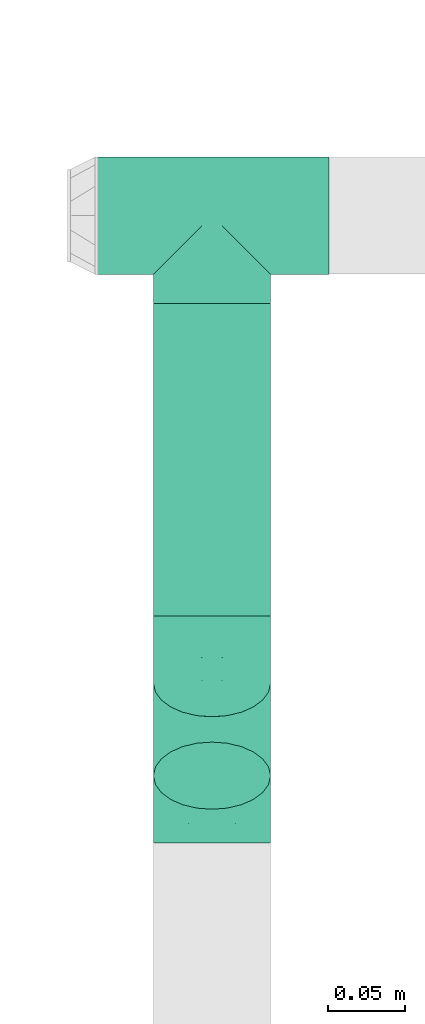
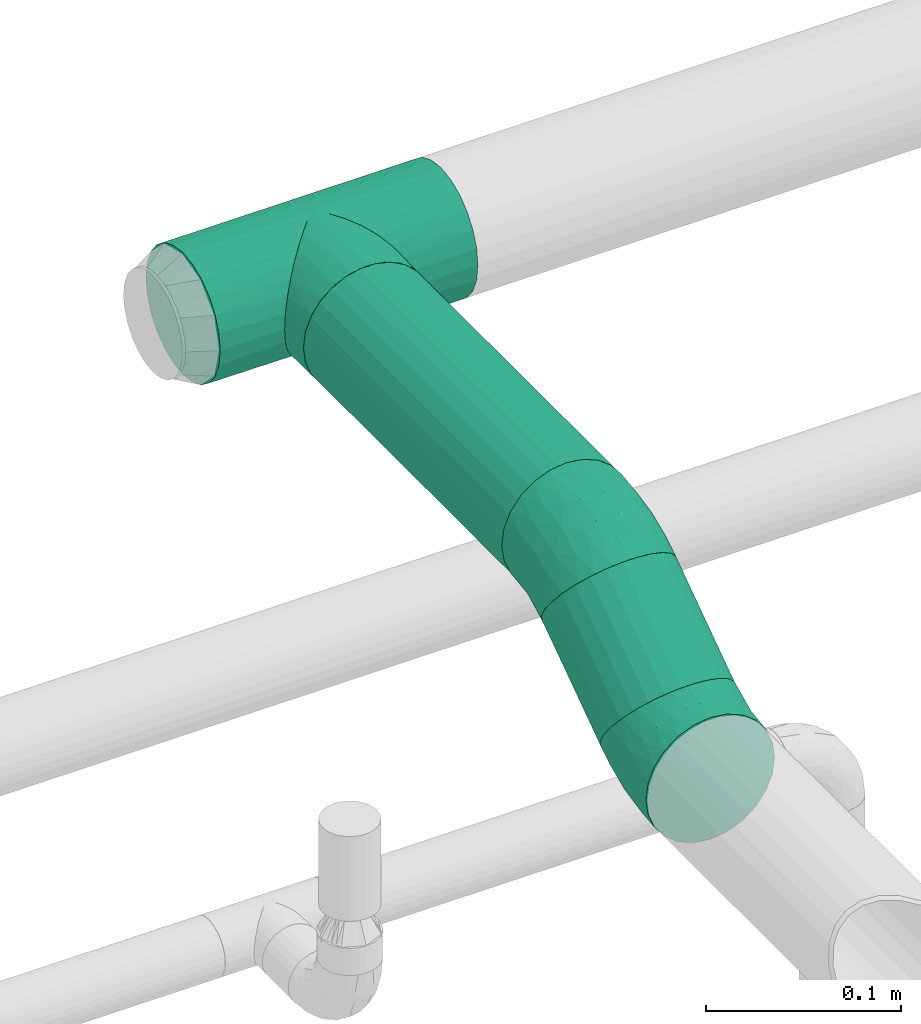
# One storey, part 15 of 95: 3 flow fittings, 2 flow segments.
"""IFC2X3 building model written with IfcOpenShell, lengths in millimetres."""

import ifcopenshell
import ifcopenshell.guid

model = None  # the IFC model being written
_history = None  # IfcOwnerHistory: only IFC2X3 demands one
_inside = {}  # id of a spatial element -> (the spatial element, [elements in it])
_under = {}  # id of a project, library or spatial element -> (it, [spatial elements below it])
_declared = {}  # id of a project -> (the project, [libraries it declares])
_typed = {}  # id of a type object -> (the type object, [elements of that type])
_made_of = {}  # id of a material, layer set ... -> (it, [elements and type objects made of it])


def new_model(schema):
    """Start an empty IFC model of exactly this schema.

    Asked for "IFC4X3", IfcOpenShell would pick the latest addendum, in which some entities
    have other attributes; the version numbers below select the first issue.
    IFC2X3 requires an IfcOwnerHistory on every rooted entity: one is made here for all.
    """
    global model, _history
    if schema == "IFC4X3":
        model = ifcopenshell.file(schema_version=(4, 3, 0, 0))
    else:
        model = ifcopenshell.file(schema=schema)
    _inside.clear()
    _under.clear()
    _declared.clear()
    _typed.clear()
    _made_of.clear()
    _history = None
    if model.schema == "IFC2X3":
        org = make("IfcOrganization", Name="unknown")
        user = make(
            "IfcPersonAndOrganization",
            ThePerson=make("IfcPerson", FamilyName="unknown"),
            TheOrganization=org,
        )
        app = make(
            "IfcApplication",
            ApplicationDeveloper=org,
            Version="unknown",
            ApplicationFullName="unknown",
            ApplicationIdentifier="unknown",
        )
        _history = make(
            "IfcOwnerHistory",
            OwningUser=user,
            OwningApplication=app,
            ChangeAction="ADDED",
            CreationDate=0,
        )
    return model


def make(cls, **values):
    """One entity of the class cls with the attributes given. An attribute that is None is left unset."""
    return model.create_entity(
        cls, **{name: value for name, value in values.items() if value is not None}
    )


def entity(cls, *values):
    """Any entity or typed value of the class cls, its attributes in the order of the schema. None: left unset."""
    e = model.create_entity(cls)
    for i, value in enumerate(values):
        if value is not None:
            e[i] = value
    return e


def rooted(cls, **values):
    """An entity with a GlobalId (a new one), such as an element, a storey or a relation."""
    return make(cls, GlobalId=ifcopenshell.guid.new(), OwnerHistory=_history, **values)


def si_unit(unit_type, name, prefix=None):
    """IfcSIUnit, for example si_unit("LENGTHUNIT", "METRE", prefix="MILLI")."""
    return make("IfcSIUnit", UnitType=unit_type, Prefix=prefix, Name=name)


def converted_unit(unit_type, name, factor, base, dimensions=None, offset=None):
    """IfcConversionBasedUnit, such as the inch: factor (a typed value) times the base unit."""
    return make(
        "IfcConversionBasedUnit"
        if offset is None
        else "IfcConversionBasedUnitWithOffset",
        ConversionOffset=offset,
        Dimensions=None
        if dimensions is None
        else entity("IfcDimensionalExponents", *dimensions),
        UnitType=unit_type,
        Name=name,
        ConversionFactor=make(
            "IfcMeasureWithUnit", ValueComponent=factor, UnitComponent=base
        ),
    )


def derived_unit(unit_type, elements):
    """IfcDerivedUnit: a product of units, each with its exponent."""
    return make(
        "IfcDerivedUnit",
        Elements=[
            make("IfcDerivedUnitElement", Unit=unit, Exponent=power)
            for unit, power in elements
        ],
        UnitType=unit_type,
    )


def assignment(units):
    """IfcUnitAssignment: the units of a project."""
    return None if units is None else make("IfcUnitAssignment", Units=units)


def point(xyz):
    """IfcCartesianPoint."""
    return None if xyz is None else make("IfcCartesianPoint", Coordinates=xyz)


def direction(xyz):
    """IfcDirection."""
    return None if xyz is None else make("IfcDirection", DirectionRatios=xyz)


def frame(location, z_axis=None, x_axis=None):
    """IfcAxis2Placement3D, a coordinate frame: its origin and axes. An axis left out is left unset."""
    return make(
        "IfcAxis2Placement3D",
        Location=point(location),
        Axis=direction(z_axis),
        RefDirection=direction(x_axis),
    )


def frame_2d(location, x_axis=None):
    """IfcAxis2Placement2D, a coordinate frame in the plane: its origin and x axis."""
    return make(
        "IfcAxis2Placement2D", Location=point(location), RefDirection=direction(x_axis)
    )


def origin_with_axes():
    """The frame at (0, 0, 0) with the z axis (0, 0, 1) and the x axis (1, 0, 0) written out."""
    return frame((0.0, 0.0, 0.0), z_axis=(0.0, 0.0, 1.0), x_axis=(1.0, 0.0, 0.0))


def origin_2d_with_axis():
    """The frame at (0, 0) in the plane with the x axis (1, 0) written out."""
    return frame_2d((0.0, 0.0), x_axis=(1.0, 0.0))


def place(relative_to, where):
    """IfcLocalPlacement: puts the frame where relative to a parent placement (None: the world)."""
    return make(
        "IfcLocalPlacement", PlacementRelTo=relative_to, RelativePlacement=where
    )


def context(
    kind, dimensions, precision=None, world=None, true_north=None, identifier=None
):
    """IfcGeometricRepresentationContext, for example the 3D "Model" context."""
    return make(
        "IfcGeometricRepresentationContext",
        ContextIdentifier=identifier,
        ContextType=kind,
        CoordinateSpaceDimension=dimensions,
        Precision=precision,
        WorldCoordinateSystem=world,
        TrueNorth=true_north,
    )


def subcontext(parent, identifier, kind, view, scale=None):
    """IfcGeometricRepresentationSubContext, for example "Body" below "Model"."""
    return make(
        "IfcGeometricRepresentationSubContext",
        ContextIdentifier=identifier,
        ContextType=kind,
        ParentContext=parent,
        TargetScale=scale,
        TargetView=view,
    )


def project(units=None, contexts=None):
    """IfcProject with its units and contexts."""
    return rooted(
        "IfcProject",
        Name="project",
        RepresentationContexts=contexts,
        UnitsInContext=assignment(units),
    )


def spatial(cls, under=None, at=None, **own):
    """A site, building, storey or space (cls), placed at a placement, below another one or the project."""
    s = rooted(cls, ObjectPlacement=at, **own)
    if under is not None:
        _under.setdefault(under.id(), (under, []))[1].append(s)
    return s


def profile(cls, at=None, kind="AREA", **sizes):
    """A parametric profile (cls). Its sizes go by their IFC names, for example OverallWidth=200.0."""
    return make(cls, ProfileType=kind, Position=at, **sizes)


def hollow_circle(**sizes):
    """IfcCircleHollowProfileDef."""
    return profile("IfcCircleHollowProfileDef", **sizes)


def extrude(swept, where, along, depth):
    """IfcExtrudedAreaSolid: the profile swept, set in the frame where, extruded along a direction by depth."""
    return make(
        "IfcExtrudedAreaSolid",
        SweptArea=swept,
        Position=where,
        ExtrudedDirection=direction(along),
        Depth=depth,
    )


def faces_of(points, faces, orient=None, outer=None):
    """IfcFace entities. A face is a list of loops; a loop is a list of indices into points, from 0.

    orient and outer hold one flag for each loop. By default every Orientation is true, the
    first loop of a face is its IfcFaceOuterBound and the others are IfcFaceBound.
    """
    made = []
    for i, loops in enumerate(faces):
        bounds = []
        for j, loop in enumerate(loops):
            is_outer = j == 0 if outer is None else outer[i][j]
            bounds.append(
                make(
                    "IfcFaceOuterBound" if is_outer else "IfcFaceBound",
                    Bound=make("IfcPolyLoop", Polygon=[points[k] for k in loop]),
                    Orientation=True if orient is None else orient[i][j],
                )
            )
        made.append(make("IfcFace", Bounds=bounds))
    return made


def open_shell(faces, orient=None, outer=None):
    """The faces of one IfcOpenShell. surface_model builds it on its shared points."""
    return ("IfcOpenShell", faces, orient, outer)


def surface_model(cls, points, shells):
    """IfcFaceBasedSurfaceModel or IfcShellBasedSurfaceModel (cls): surfaces that need not close."""
    shared = [point(p) for p in points]
    made = [make(c, CfsFaces=faces_of(shared, fs, o, b)) for c, fs, o, b in shells]
    if cls == "IfcFaceBasedSurfaceModel":
        return make(cls, FbsmFaces=made)
    return make(cls, SbsmBoundary=made)


def shape(context_of_items, identifier, shape_type, items):
    """IfcShapeRepresentation: the items that make up one representation, for example the "Body"."""
    return make(
        "IfcShapeRepresentation",
        ContextOfItems=context_of_items,
        RepresentationIdentifier=identifier,
        RepresentationType=shape_type,
        Items=items,
    )


def source(mapping_origin, context_of_items, identifier, shape_type, items):
    """IfcRepresentationMap: a shape defined once, which mapped items show again and again."""
    return make(
        "IfcRepresentationMap",
        MappingOrigin=mapping_origin,
        MappedRepresentation=shape(context_of_items, identifier, shape_type, items),
    )


def transform(
    local_origin,
    x_axis=None,
    y_axis=None,
    z_axis=None,
    scale=None,
    scale2=None,
    scale3=None,
    uniform=True,
):
    """IfcCartesianTransformationOperator3D, or its non-uniform kind. x_axis, y_axis, z_axis: its Axis1, 2, 3."""
    if uniform:
        return make(
            "IfcCartesianTransformationOperator3D",
            Axis1=direction(x_axis),
            Axis2=direction(y_axis),
            LocalOrigin=point(local_origin),
            Scale=scale,
            Axis3=direction(z_axis),
        )
    return make(
        "IfcCartesianTransformationOperator3DnonUniform",
        Axis1=direction(x_axis),
        Axis2=direction(y_axis),
        LocalOrigin=point(local_origin),
        Scale=scale,
        Axis3=direction(z_axis),
        Scale2=scale2,
        Scale3=scale3,
    )


def mapped(mapping_source, mapping_target):
    """IfcMappedItem: shows the shape of a source again, moved by a transform."""
    return make(
        "IfcMappedItem", MappingSource=mapping_source, MappingTarget=mapping_target
    )


def made_of(thing, what):
    """Note that an element or type object is made of a material, layer set ...; save() writes the relation."""
    if what is not None:
        _made_of.setdefault(what.id(), (what, []))[1].append(thing)
    return thing


def type_object(cls, material=None, **own):
    """A type object (cls), such as IfcWallType, which elements share."""
    return made_of(rooted(cls, **own), material)


def element(
    cls,
    number,
    at=None,
    inside=None,
    cuts=None,
    type_object=None,
    material=None,
    context=None,
    identifier="Body",
    shape_type=None,
    held_by="IfcProductDefinitionShape",
    body=None,
    shapes=None,
    **own,
):
    """One element of the class cls, such as IfcWall. Its Tag is "e" and its number.

    at: its placement. inside: the storey or other place that contains it. cuts: it is an
    opening in that element (IfcRelVoidsElement). A single representation is given by context,
    identifier, shape_type and body (its items); several are given by shapes. held_by: the class
    of the entity that holds the representations. save() writes the other relations.
    """
    e = rooted(cls, Tag="e%d" % number, ObjectPlacement=at, **own)
    if body is not None:
        shapes = [shape(context, identifier, shape_type, body)]
    if shapes is not None:
        e.Representation = make(held_by, Representations=shapes)
    if inside is not None:
        _inside.setdefault(inside.id(), (inside, []))[1].append(e)
    if cuts is not None:
        rooted(
            "IfcRelVoidsElement", RelatingBuildingElement=cuts, RelatedOpeningElement=e
        )
    if type_object is not None:
        _typed.setdefault(type_object.id(), (type_object, []))[1].append(e)
    return made_of(e, material)


def aggregate(whole, parts):
    """IfcRelAggregates: a whole, such as a stair, and the parts it consists of."""
    return rooted("IfcRelAggregates", RelatingObject=whole, RelatedObjects=parts)


def save(model, path):
    """Write the relations noted so far, then the file.

    IfcRelAggregates (storeys below a building ...), IfcRelContainedInSpatialStructure (elements
    in a storey), IfcRelDefinesByType, IfcRelAssociatesMaterial and IfcRelDeclares: one each for
    every whole, place, type object, material and project.
    """
    for whole, parts in _under.values():
        aggregate(whole, parts)
    for where, things in _inside.values():
        rooted(
            "IfcRelContainedInSpatialStructure",
            RelatedElements=things,
            RelatingStructure=where,
        )
    for kind, things in _typed.values():
        rooted("IfcRelDefinesByType", RelatedObjects=things, RelatingType=kind)
    for what, things in _made_of.values():
        rooted("IfcRelAssociatesMaterial", RelatedObjects=things, RelatingMaterial=what)
    for by, libraries in _declared.values():
        rooted("IfcRelDeclares", RelatingContext=by, RelatedDefinitions=libraries)
    model.write(path)


model = new_model("IFC2X3")

# Units and contexts
model_context = context("Model", 3, precision=0.01, world=frame((0.0, 4.29681676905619e-09, 0.0)), true_north=direction((4.01073788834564e-13, 1.0)))
plan_context = context("Plan", 3, precision=0.01, world=frame((0.0, 4.29681676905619e-09, 0.0)), true_north=direction((4.01073788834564e-13, 1.0)))
body_context = subcontext(model_context, "Body", "Model", "MODEL_VIEW")
ifc_project = project(units=[converted_unit("PLANEANGLEUNIT", "DEGREE", entity("IfcPositiveLengthMeasure", 0.0174532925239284), si_unit("PLANEANGLEUNIT", "RADIAN"), dimensions=[0, 0, 0, 0, 0, 0, 0]), si_unit("AREAUNIT", "SQUARE_METRE"), si_unit("LENGTHUNIT", "METRE", prefix="MILLI"), si_unit("MASSUNIT", "GRAM", prefix="KILO"), si_unit("POWERUNIT", "WATT"), si_unit("PRESSUREUNIT", "PASCAL"), si_unit("FORCEUNIT", "NEWTON", prefix="KILO"), si_unit("ELECTRICVOLTAGEUNIT", "VOLT"), si_unit("ELECTRICCURRENTUNIT", "AMPERE"), si_unit("THERMODYNAMICTEMPERATUREUNIT", "DEGREE_CELSIUS"), si_unit("TIMEUNIT", "SECOND"), si_unit("VOLUMEUNIT", "CUBIC_METRE"), derived_unit("LINEARVELOCITYUNIT", [(si_unit("LENGTHUNIT", "METRE"), 1), (si_unit("TIMEUNIT", "SECOND"), -1)]), derived_unit("VOLUMETRICFLOWRATEUNIT", [(si_unit("VOLUMEUNIT", "CUBIC_METRE"), 1), (si_unit("TIMEUNIT", "SECOND"), -1)]), derived_unit("THERMALTRANSMITTANCEUNIT", [(si_unit("POWERUNIT", "WATT"), 1), (si_unit("THERMODYNAMICTEMPERATUREUNIT", "KELVIN"), -1), (si_unit("AREAUNIT", "SQUARE_METRE"), -1)]), derived_unit("SOUNDPRESSUREUNIT", [(si_unit("PRESSUREUNIT", "PASCAL"), 1)])], contexts=[model_context, plan_context])

# Site, building, storey
site_placement = place(None, frame((0.0, -4.29681676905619e-09, 0.0), z_axis=(0.0, 0.0, 1.0), x_axis=(1.0, 0.0, 0.0)))
site = spatial("IfcSite", under=ifc_project, at=site_placement, CompositionType="ELEMENT")
building_placement = place(site_placement, frame((0.0, 4.29681676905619e-09, 0.0), z_axis=(0.0, 0.0, 1.0), x_axis=(1.0, 0.0, 0.0)))
building = spatial("IfcBuilding", under=site, at=building_placement, Name="mc-building", CompositionType="ELEMENT")
storey_placement = place(building_placement, frame((0.0, 0.0, 210900.0), z_axis=(0.0, 0.0, 1.0), x_axis=(1.0, 0.0, 0.0)))
storey = spatial("IfcBuildingStorey", under=building, at=storey_placement, Name="Nivå F", CompositionType="ELEMENT", Elevation=210900.0)

# Flow fittings
pipe_fitting_type_1 = type_object("IfcPipeFittingType", Name="magi_pipe_fe_tee_centric_90_NOR", PredefinedType="JUNCTION")
shared_shape_1 = source(origin_with_axes(), body_context, "Body", "SurfaceModel", [
    surface_model("IfcShellBasedSurfaceModel", [(-76.2, 19.05, -32.99557), (-76.2, 9.86101, -36.80177), (-76.2, 0.0, -38.1), (-76.2, 26.94077, -26.94077), (-76.2, 36.80177, -9.86101), (-76.2, 32.99557, -19.05), (-76.2, -19.05, -32.99557), (-76.2, -26.94077, -26.94077), (-76.2, -9.86101, -36.80177), (-76.2, 38.1, 0.0), (-76.2, 36.80177, 9.86101), (-76.2, -38.1, 0.0), (-76.2, -36.80177, -9.86101), (-76.2, -32.99557, -19.05), (-76.2, 32.99557, 19.05), (-76.2, -36.80177, 9.86101), (-76.2, 19.05, 32.99557), (-76.2, 26.94077, 26.94077), (-76.2, 0.0, 38.1), (-76.2, 9.86101, 36.80177), (-76.2, -26.94077, 26.94077), (-76.2, -32.99557, 19.05), (-76.2, -9.86101, 36.80177), (-76.2, -19.05, 32.99557), (76.2, 0.0, -38.1), (76.2, -36.80177, 9.86101), (76.2, -38.1, 0.0), (76.2, 36.80177, -9.86101), (76.2, 9.86101, -36.80177), (76.2, 19.05, -32.99557), (76.2, 26.94077, -26.94077), (76.2, 32.99557, -19.05), (76.2, -9.86101, -36.80177), (76.2, -26.94077, -26.94077), (76.2, -19.05, -32.99557), (76.2, -32.99557, -19.05), (76.2, -36.80177, -9.86101), (76.2, 19.05, 32.99557), (76.2, 36.80177, 9.86101), (76.2, 32.99557, 19.05), (76.2, 0.0, 38.1), (76.2, 26.94077, 26.94077), (76.2, 9.86101, 36.80177), (76.2, -32.99557, 19.05), (76.2, -26.94077, 26.94077), (76.2, -19.05, 32.99557), (76.2, -9.86101, 36.80177), (76.2, 38.1, 0.0), (37.03376, -37.03376, 8.95045), (38.1, -38.1, 0.0), (76.2, -34.89867, 14.4555), (35.56052, -35.56052, 12.98504), (34.08727, -34.08727, 17.01964), (18.8305, -18.8305, 33.12132), (76.2, -22.99539, 29.96817), (29.78269, -29.78269, 23.76134), (76.2, -29.96817, 22.99539), (24.5894, -24.5894, 29.10277), (-35.56052, -35.56052, 12.98504), (-76.2, -34.89867, 14.4555), (-34.08727, -34.08727, 17.01964), (-37.03376, -37.03376, 8.95045), (-38.1, -38.1, 0.0), (-18.8305, -18.8305, 33.12132), (-76.2, -22.99539, 29.96817), (-29.78269, -29.78269, 23.76134), (-24.5894, -24.5894, 29.10277), (-76.2, -29.96817, 22.99539), (-12.71924, -12.71924, 35.91422), (6.40528, -6.40528, 37.55772), (12.71924, -12.71924, 35.91422), (0.0, 0.0, 38.1), (-6.40528, -6.40528, 37.55772), (6.40528, -6.40528, -37.55772), (0.0, 0.0, -38.1), (12.71924, -12.71924, -35.91422), (-24.5894, -24.5894, -29.10277), (-76.2, -22.99539, -29.96817), (-35.56052, -35.56052, -12.98504), (-37.03376, -37.03376, -8.95045), (-29.78269, -29.78269, -23.76134), (-76.2, -29.96817, -22.99539), (-6.40528, -6.40528, -37.55772), (-12.71924, -12.71924, -35.91422), (18.8305, -18.8305, -33.12132), (76.2, -22.99539, -29.96817), (24.5894, -24.5894, -29.10277), (-76.2, -34.89867, -14.4555), (-34.08727, -34.08727, -17.01964), (29.78269, -29.78269, -23.76134), (76.2, -29.96817, -22.99539), (37.03376, -37.03376, -8.95045), (35.56052, -35.56052, -12.98504), (34.08727, -34.08727, -17.01964), (76.2, -34.89867, -14.4555), (-18.8305, -18.8305, -33.12132), (0.0, -57.15, -38.1), (9.86101, -57.15, -36.80177), (19.05, -57.15, -32.99557), (26.94077, -57.15, -26.94077), (32.99557, -57.15, -19.05), (36.80177, -57.15, -9.86101), (0.0, -57.15, 38.1), (-26.94077, -57.15, -26.94077), (-9.86101, -57.15, -36.80177), (-19.05, -57.15, -32.99557), (-36.80177, -57.15, -9.86101), (-32.99557, -57.15, -19.05), (-32.99557, -57.15, 19.05), (-36.80177, -57.15, 9.86101), (-38.1, -57.15, 0.0), (19.05, -57.15, 32.99557), (36.80177, -57.15, 9.86101), (32.99557, -57.15, 19.05), (26.94077, -57.15, 26.94077), (9.86101, -57.15, 36.80177), (-26.94077, -57.15, 26.94077), (-19.05, -57.15, 32.99557), (-9.86101, -57.15, 36.80177), (38.1, -57.15, 0.0)], [open_shell([[[0, 1, 2]], [[3, 0, 2]], [[4, 5, 3]], [[6, 7, 8]], [[9, 4, 10]], [[11, 3, 2]], [[4, 3, 11]], [[11, 8, 7]], [[12, 11, 13]], [[7, 13, 11]], [[11, 2, 8]], [[11, 10, 4]], [[14, 10, 11]], [[14, 11, 15]], [[15, 16, 14]], [[17, 14, 16]], [[18, 19, 16]], [[20, 18, 21]], [[15, 21, 18]], [[22, 18, 23]], [[20, 23, 18]], [[18, 16, 15]], [[24, 25, 26]], [[27, 28, 29]], [[30, 31, 27]], [[30, 27, 29]], [[28, 25, 24]], [[32, 33, 34]], [[32, 24, 33]], [[35, 26, 36]], [[26, 35, 33]], [[24, 26, 33]], [[28, 27, 37]], [[27, 38, 37]], [[37, 38, 39]], [[37, 40, 28]], [[37, 39, 41]], [[40, 37, 42]], [[43, 40, 44]], [[25, 28, 43]], [[45, 40, 46]], [[40, 45, 44]], [[40, 43, 28]], [[38, 27, 47]], [[26, 25, 48]], [[48, 49, 26]], [[25, 50, 51]], [[50, 43, 52]], [[45, 53, 54]], [[44, 55, 56]], [[55, 44, 57]], [[43, 55, 52]], [[57, 44, 54]], [[15, 58, 59]], [[60, 59, 58]], [[61, 11, 62]], [[11, 61, 15]], [[15, 61, 58]], [[63, 23, 64]], [[65, 66, 20]], [[65, 67, 21]], [[20, 66, 64]], [[63, 68, 23]], [[65, 21, 60]], [[50, 52, 51]], [[54, 53, 57]], [[46, 40, 69]], [[25, 51, 48]], [[53, 45, 70]], [[69, 70, 46]], [[65, 20, 67]], [[69, 40, 71]], [[70, 45, 46]], [[14, 41, 39]], [[10, 39, 38]], [[16, 42, 37]], [[17, 37, 41]], [[42, 71, 40]], [[9, 38, 47]], [[72, 71, 18]], [[60, 21, 59]], [[72, 22, 68]], [[22, 72, 18]], [[22, 23, 68]], [[71, 19, 18]], [[63, 64, 66]], [[42, 19, 71]], [[16, 19, 42]], [[16, 37, 17]], [[14, 17, 41]], [[10, 14, 39]], [[38, 9, 10]], [[55, 43, 56]], [[3, 31, 30]], [[4, 27, 31]], [[9, 47, 27]], [[0, 30, 29]], [[24, 32, 73]], [[28, 24, 74]], [[73, 32, 75]], [[76, 7, 77]], [[29, 28, 1]], [[32, 34, 75]], [[24, 73, 74]], [[4, 31, 5]], [[0, 3, 30]], [[5, 31, 3]], [[9, 27, 4]], [[12, 78, 79]], [[80, 13, 81]], [[82, 83, 8]], [[74, 82, 2]], [[74, 2, 1]], [[2, 82, 8]], [[83, 6, 8]], [[1, 0, 29]], [[74, 1, 28]], [[84, 85, 86]], [[85, 33, 86]], [[87, 88, 78]], [[84, 34, 85]], [[89, 86, 33]], [[90, 35, 89]], [[34, 84, 75]], [[36, 91, 92]], [[91, 36, 26]], [[93, 94, 92]], [[49, 91, 26]], [[35, 93, 89]], [[76, 77, 95]], [[36, 92, 94]], [[77, 6, 95]], [[7, 76, 80]], [[7, 80, 81]], [[93, 35, 94]], [[95, 6, 83]], [[79, 62, 11]], [[12, 87, 78]], [[88, 87, 13]], [[12, 79, 11]], [[88, 13, 80]], [[89, 33, 90]], [[96, 97, 98]], [[96, 98, 99]], [[99, 100, 101]], [[99, 101, 96]], [[102, 103, 96]], [[104, 103, 105]], [[104, 96, 103]], [[103, 106, 107]], [[103, 108, 106]], [[106, 109, 110]], [[111, 96, 101]], [[112, 113, 101]], [[101, 113, 111]], [[111, 102, 96]], [[111, 113, 114]], [[102, 111, 115]], [[108, 102, 116]], [[109, 106, 108]], [[117, 102, 118]], [[102, 117, 116]], [[102, 108, 103]], [[112, 101, 119]], [[61, 62, 110]], [[109, 61, 110]], [[116, 117, 66]], [[65, 108, 116]], [[60, 109, 108]], [[68, 117, 118]], [[60, 61, 109]], [[66, 65, 116]], [[60, 108, 65]], [[68, 63, 117]], [[102, 71, 72]], [[68, 118, 72]], [[66, 117, 63]], [[72, 118, 102]], [[69, 102, 115]], [[111, 70, 115]], [[113, 112, 52]], [[55, 114, 113]], [[57, 111, 114]], [[48, 112, 119]], [[57, 53, 111]], [[70, 69, 115]], [[53, 70, 111]], [[49, 48, 119]], [[52, 55, 113]], [[48, 52, 112]], [[57, 114, 55]], [[102, 69, 71]], [[49, 119, 91]], [[101, 91, 119]], [[89, 100, 99]], [[99, 98, 86]], [[93, 101, 100]], [[75, 98, 97]], [[93, 91, 101]], [[86, 89, 99]], [[93, 100, 89]], [[75, 84, 98]], [[96, 74, 73]], [[75, 97, 73]], [[86, 98, 84]], [[73, 97, 96]], [[82, 96, 104]], [[105, 83, 104]], [[107, 106, 88]], [[80, 103, 107]], [[76, 105, 103]], [[79, 106, 110]], [[76, 95, 105]], [[83, 82, 104]], [[95, 83, 105]], [[62, 79, 110]], [[88, 80, 107]], [[79, 88, 106]], [[76, 103, 80]], [[96, 82, 74]]])]),
])
flow_fitting_placement = place(storey_placement, frame((520864.85321, 449640.17009, 4440.0), z_axis=(0.0, 0.0, -1.0), x_axis=(-1.0, 0.0, 0.0)))
element("IfcFlowFitting", 1, at=flow_fitting_placement, inside=storey, type_object=pipe_fitting_type_1, Name="magi_pipe_fe_tee_centric_90_NOR", context=body_context, shape_type="MappedRepresentation", body=[
    mapped(shared_shape_1, transform((0.0, 0.0, 0.0), scale=1.0)),
])
pipe_fitting_type_2 = type_object("IfcPipeFittingType", Name="magi_pipe_fe_elbow_short_001", PredefinedType="BEND")
shared_shape_2 = source(origin_with_axes(), body_context, "Body", "SurfaceModel", [
    surface_model("IfcShellBasedSurfaceModel", [(-24.02577, 19.05, -32.99557), (-24.02577, 9.86101, -36.80177), (-24.02577, 0.0, -38.1), (-24.02577, 26.94077, -26.94077), (-24.02577, 36.80177, -9.86101), (-24.02577, 32.99557, -19.05), (-24.02577, -36.80177, 9.86101), (-24.02577, -9.86101, -36.80177), (-24.02577, -26.94077, -26.94077), (-24.02577, -32.99557, -19.05), (-24.02577, -19.05, -32.99557), (-24.02577, -36.80177, -9.86101), (-24.02577, -38.1, 0.0), (-24.02577, 36.80177, 9.86101), (-24.02577, 26.94077, 26.94077), (-24.02577, 32.99557, 19.05), (-24.02577, 9.86101, 36.80177), (-24.02577, 19.05, 32.99557), (-24.02577, -19.05, 32.99557), (-24.02577, 0.0, 38.1), (-24.02577, -32.99557, 19.05), (-24.02577, -26.94077, 26.94077), (-24.02577, -9.86101, 36.80177), (-24.02577, 38.1, 0.0), (4.22817, 35.8492, -26.94077), (19.68076, 13.78061, -38.1), (14.02472, 21.85828, -36.80177), (8.75413, 29.38546, -32.99557), (0.75528, 40.809, -19.05), (-1.42787, 43.92686, -9.86101), (25.3368, 5.70295, -36.80177), (40.78939, -16.36563, 9.86101), (35.13335, -8.28797, -26.94077), (30.60739, -1.82423, -32.99557), (40.78939, -16.36563, -9.86101), (38.60624, -13.24777, -19.05), (41.53402, -17.42908, 0.0), (-1.42787, 43.92686, 9.86101), (0.75528, 40.809, 19.05), (4.22817, 35.8492, 26.94077), (8.75413, 29.38546, 32.99557), (14.02472, 21.85828, 36.80177), (35.13335, -8.28797, 26.94077), (38.60624, -13.24777, 19.05), (25.3368, 5.70295, 36.80177), (30.60739, -1.82423, 32.99557), (19.68076, 13.78061, 38.1), (-2.17251, 44.99031, 0.0), (-9.47827, -29.62294, 22.67459), (3.62347, -11.49217, 34.69318), (-12.07881, -14.29617, 34.98803), (-3.6734, -21.82117, 29.66204), (24.75516, -18.82918, 22.67459), (-5.69582, -3.75751, 37.65106), (-5.27058, -35.2133, 0.0), (2.28021, -34.44893, 6.54872), (-2.2836, 7.24266, 37.90026), (-2.7527, -33.51699, 13.67758), (8.23814, -26.12804, 22.01766), (18.09433, -4.78262, 34.98803), (-10.05265, 31.88293, 23.82442), (-7.87092, 24.96335, 30.76361), (17.34289, -29.71987, 6.66868), (21.47943, -25.87663, 13.67758), (16.93513, -15.08875, 29.70601), (-12.35938, 39.19896, 7.25263), (-12.56888, 39.86338, 0.0), (-11.61358, 36.83358, 15.23097), (-7.98277, 15.89679, 35.51325), (10.3449, -32.80985, 0.0), (10.6881, 2.09754, 37.68166), (24.51493, -25.82197, 0.0), (-9.95828, -4.41224, -37.68166), (17.34289, -29.71987, -6.66868), (2.28021, -34.44893, -6.54872), (-2.7527, -33.51699, -13.67758), (6.82096, 0.18902, -37.65106), (-2.2836, 7.24266, -37.90026), (-10.05265, 31.88293, -23.82442), (-7.87092, 24.96335, -30.76361), (21.47943, -25.87663, -13.67758), (-12.35938, 39.19896, -7.25263), (-11.61359, 36.83358, -15.23097), (15.52518, -15.76788, -29.66204), (8.23814, -26.12804, -22.01766), (-9.47827, -29.62294, -22.67459), (-5.21789, -22.07357, -29.70601), (-2.57892, 17.60061, -35.51325), (-12.07881, -14.29617, -34.98803), (3.62347, -11.49217, -34.69318), (18.09433, -4.78262, -34.98803), (24.75516, -18.82918, -22.67459)], [open_shell([[[0, 1, 2]], [[3, 0, 2]], [[4, 5, 3]], [[6, 3, 2]], [[6, 2, 7]], [[8, 9, 10]], [[10, 9, 6]], [[11, 12, 9]], [[9, 12, 6]], [[10, 6, 7]], [[3, 6, 4]], [[13, 4, 14]], [[15, 13, 14]], [[16, 17, 14]], [[18, 14, 4]], [[16, 14, 19]], [[20, 21, 6]], [[6, 21, 4]], [[22, 19, 18]], [[18, 4, 21]], [[14, 18, 19]], [[23, 4, 13]], [[24, 25, 26]], [[24, 26, 27]], [[28, 29, 25]], [[28, 25, 24]], [[30, 25, 31]], [[30, 32, 33]], [[31, 34, 32]], [[32, 34, 35]], [[36, 34, 31]], [[31, 32, 30]], [[31, 25, 29]], [[37, 38, 29]], [[29, 38, 31]], [[39, 40, 41]], [[39, 41, 38]], [[42, 38, 41]], [[31, 42, 43]], [[31, 38, 42]], [[42, 44, 45]], [[44, 42, 46]], [[41, 46, 42]], [[29, 47, 37]], [[20, 48, 21]], [[49, 50, 51]], [[18, 21, 51]], [[43, 42, 52]], [[19, 22, 53]], [[22, 18, 50]], [[6, 54, 55]], [[53, 56, 19]], [[19, 56, 16]], [[46, 41, 56]], [[48, 57, 58]], [[45, 44, 59]], [[14, 60, 15]], [[61, 14, 17]], [[57, 55, 62]], [[58, 57, 63]], [[58, 52, 64]], [[23, 65, 66]], [[20, 6, 57]], [[23, 13, 65]], [[13, 15, 67]], [[17, 16, 68]], [[68, 61, 17]], [[48, 51, 21]], [[69, 55, 54]], [[55, 69, 62]], [[70, 56, 53]], [[45, 64, 42]], [[39, 38, 60]], [[70, 44, 46]], [[6, 55, 57]], [[63, 43, 52]], [[57, 62, 63]], [[51, 64, 49]], [[71, 36, 31]], [[62, 31, 63]], [[69, 71, 62]], [[6, 12, 54]], [[65, 67, 37]], [[66, 65, 47]], [[49, 59, 70]], [[50, 53, 22]], [[41, 68, 56]], [[41, 40, 68]], [[58, 64, 51]], [[39, 60, 61]], [[16, 56, 68]], [[60, 38, 67]], [[40, 61, 68]], [[64, 45, 59]], [[61, 60, 14]], [[43, 63, 31]], [[31, 62, 71]], [[40, 39, 61]], [[60, 67, 15]], [[38, 37, 67]], [[56, 70, 46]], [[49, 70, 53]], [[57, 48, 20]], [[51, 48, 58]], [[64, 52, 42]], [[63, 52, 58]], [[67, 65, 13]], [[47, 65, 37]], [[51, 50, 18]], [[53, 50, 49]], [[70, 59, 44]], [[64, 59, 49]], [[7, 2, 72]], [[73, 74, 75]], [[25, 30, 76]], [[2, 1, 77]], [[78, 3, 5]], [[34, 36, 71]], [[3, 78, 79]], [[35, 34, 80]], [[4, 81, 82]], [[33, 32, 83]], [[84, 85, 86]], [[1, 0, 87]], [[74, 11, 75]], [[71, 69, 73]], [[34, 73, 80]], [[85, 75, 9]], [[10, 86, 8]], [[27, 26, 87]], [[9, 75, 11]], [[8, 85, 9]], [[88, 10, 7]], [[89, 88, 72]], [[1, 87, 77]], [[86, 10, 88]], [[23, 66, 81]], [[73, 75, 80]], [[47, 29, 81]], [[26, 77, 87]], [[34, 71, 73]], [[82, 5, 4]], [[78, 28, 24]], [[89, 83, 86]], [[87, 79, 27]], [[77, 76, 72]], [[0, 79, 87]], [[3, 79, 0]], [[84, 80, 75]], [[25, 77, 26]], [[90, 30, 33]], [[91, 83, 32]], [[24, 27, 79]], [[83, 89, 90]], [[80, 84, 91]], [[84, 86, 83]], [[74, 73, 69]], [[79, 78, 24]], [[54, 74, 69]], [[91, 32, 35]], [[90, 76, 30]], [[77, 25, 76]], [[54, 12, 11]], [[23, 81, 4]], [[11, 74, 54]], [[78, 5, 82]], [[29, 28, 82]], [[78, 82, 28]], [[77, 72, 2]], [[89, 72, 76]], [[86, 85, 8]], [[75, 85, 84]], [[80, 91, 35]], [[83, 91, 84]], [[47, 81, 66]], [[82, 81, 29]], [[72, 88, 7]], [[86, 88, 89]], [[83, 90, 33]], [[76, 90, 89]]])]),
])
for number, where, z_axis, x_axis, name in (
    (2, (520864.85321, 449256.2, 4370.29999999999), (1.0, 0.0, 0.0), (0.0, 1.0, 0.0), "magi_pipe_fe_elbow_short_001"),
    (3, (520864.85321, 449355.74192, 4440.0), (-1.0, 0.0, 0.0), (0.0, 0.819152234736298, 0.573576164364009), "magi_pipe_fe_elbow_short_001"),
):
    element("IfcFlowFitting", number, at=place(storey_placement, frame(where, z_axis=z_axis, x_axis=x_axis)), inside=storey, type_object=pipe_fitting_type_2, Name=name, context=body_context, shape_type="MappedRepresentation", body=[
        mapped(shared_shape_2, transform((0.0, 0.0, 0.0), scale=1.0)),
    ])

# Flow segments
pipe_segment_type = type_object("IfcPipeSegmentType", Name="Stålrør normaltykke", PredefinedType="RIGIDSEGMENT")
shared_shape_3 = source(origin_with_axes(), body_context, "Body", "SweptSolid", [
    extrude(hollow_circle(Radius=38.0, WallThickness=2.0, at=origin_2d_with_axis()), frame((0.0, 0.0, 0.0), z_axis=(1.0, 0.0, 0.0), x_axis=(0.0, 1.0, 0.0)), (0.0, 0.0, 1.0), 73.5),
])
flow_segment_1_placement = place(storey_placement, frame((520864.85321, 449275.88076, 4384.08061), z_axis=(0.0, -0.573576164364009, 0.819152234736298), x_axis=(0.0, 0.819152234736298, 0.573576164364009)))
element("IfcFlowSegment", 4, at=flow_segment_1_placement, inside=storey, type_object=pipe_segment_type, Name="Stålrør normaltykke", context=body_context, shape_type="MappedRepresentation", body=[
    mapped(shared_shape_3, transform((0.0, 0.0, 0.0), scale=1.0)),
])
shared_shape_4 = source(origin_with_axes(), body_context, "Body", "SweptSolid", [
    extrude(hollow_circle(Radius=38.0, WallThickness=2.0, at=origin_2d_with_axis()), frame((0.0, 0.0, 0.0), z_axis=(1.0, 0.0, 0.0), x_axis=(0.0, 1.0, 0.0)), (0.0, 0.0, 1.0), 203.3),
])
flow_segment_2_placement = place(storey_placement, frame((520864.85321, 449583.02009, 4440.0), z_axis=(0.0, 0.0, 1.0), x_axis=(0.0, -1.0, 0.0)))
element("IfcFlowSegment", 5, at=flow_segment_2_placement, inside=storey, type_object=pipe_segment_type, Name="Stålrør normaltykke", context=body_context, shape_type="MappedRepresentation", body=[
    mapped(shared_shape_4, transform((0.0, 0.0, 0.0), scale=1.0)),
])

save(model, "model.ifc")
